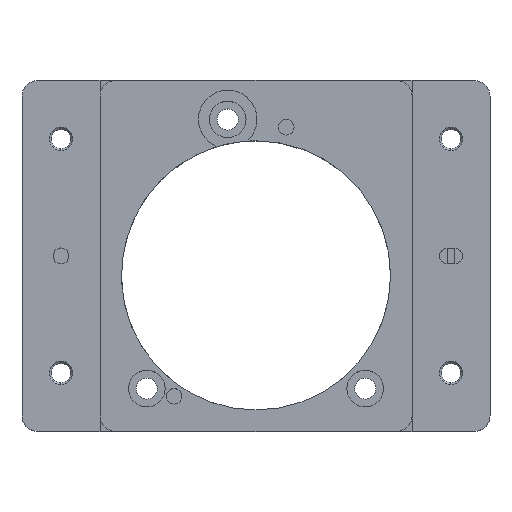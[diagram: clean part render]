
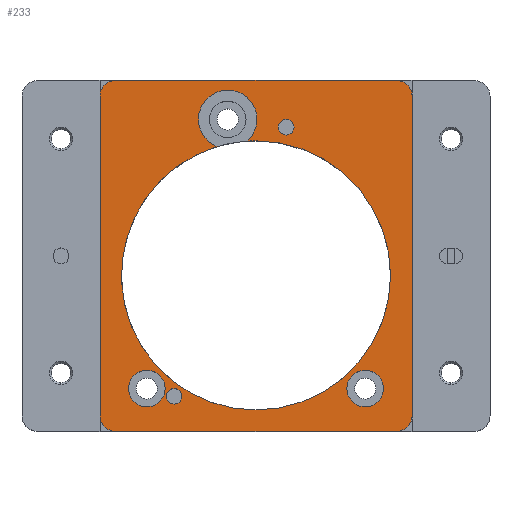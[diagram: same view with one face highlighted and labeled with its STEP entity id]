
A CAD part, top view. The second image highlights one B-rep face of the part: STEP entity #233.
In plain terms, the highlighted planar face has unit normal (0, 0, 1).
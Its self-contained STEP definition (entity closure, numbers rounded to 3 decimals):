
#233=ADVANCED_FACE('',(#470,#471,#472,#473,#474,#348),#1184,.T.);
#348=FACE_OUTER_BOUND('',#506,.F.);
#470=FACE_BOUND('',#501,.F.);
#471=FACE_BOUND('',#502,.F.);
#472=FACE_BOUND('',#503,.F.);
#473=FACE_BOUND('',#504,.F.);
#474=FACE_BOUND('',#505,.F.);
#501=EDGE_LOOP('',(#673,#674));
#502=EDGE_LOOP('',(#675,#676));
#503=EDGE_LOOP('',(#677,#678,#679,#680,#681));
#504=EDGE_LOOP('',(#682,#683));
#505=EDGE_LOOP('',(#684,#685));
#506=EDGE_LOOP('',(#686,#687,#688,#689,#690,#691,#692,#693));
#673=ORIENTED_EDGE('',*,*,#2292,.T.);
#674=ORIENTED_EDGE('',*,*,#2291,.T.);
#675=ORIENTED_EDGE('',*,*,#2312,.T.);
#676=ORIENTED_EDGE('',*,*,#2311,.T.);
#677=ORIENTED_EDGE('',*,*,#2324,.T.);
#678=ORIENTED_EDGE('',*,*,#2323,.T.);
#679=ORIENTED_EDGE('',*,*,#2303,.T.);
#680=ORIENTED_EDGE('',*,*,#2302,.T.);
#681=ORIENTED_EDGE('',*,*,#2304,.T.);
#682=ORIENTED_EDGE('',*,*,#2316,.T.);
#683=ORIENTED_EDGE('',*,*,#2315,.T.);
#684=ORIENTED_EDGE('',*,*,#2290,.T.);
#685=ORIENTED_EDGE('',*,*,#2289,.T.);
#686=ORIENTED_EDGE('',*,*,#2325,.F.);
#687=ORIENTED_EDGE('',*,*,#2273,.F.);
#688=ORIENTED_EDGE('',*,*,#2287,.T.);
#689=ORIENTED_EDGE('',*,*,#2276,.F.);
#690=ORIENTED_EDGE('',*,*,#2326,.F.);
#691=ORIENTED_EDGE('',*,*,#2270,.F.);
#692=ORIENTED_EDGE('',*,*,#2288,.T.);
#693=ORIENTED_EDGE('',*,*,#2267,.F.);
#1184=PLANE('',#2915);
#1983=LINE('',#3928,#2118);
#1984=LINE('',#3929,#2119);
#1991=LINE('',#3966,#2126);
#1992=LINE('',#3967,#2127);
#2118=VECTOR('',#3168,41.);
#2119=VECTOR('',#3169,41.);
#2126=VECTOR('',#3236,36.);
#2127=VECTOR('',#3237,36.);
#2267=EDGE_CURVE('',#2725,#2724,#2524,.T.);
#2270=EDGE_CURVE('',#2722,#2721,#2525,.T.);
#2273=EDGE_CURVE('',#2719,#2718,#2526,.T.);
#2276=EDGE_CURVE('',#2716,#2715,#2527,.T.);
#2287=EDGE_CURVE('',#2719,#2715,#1983,.T.);
#2288=EDGE_CURVE('',#2722,#2724,#1984,.T.);
#2289=EDGE_CURVE('',#2713,#2712,#2528,.T.);
#2290=EDGE_CURVE('',#2712,#2713,#2529,.T.);
#2291=EDGE_CURVE('',#2711,#2710,#2530,.T.);
#2292=EDGE_CURVE('',#2710,#2711,#2531,.T.);
#2302=EDGE_CURVE('',#2701,#2700,#2535,.T.);
#2303=EDGE_CURVE('',#2703,#2701,#2536,.T.);
#2304=EDGE_CURVE('',#2700,#2702,#2537,.T.);
#2311=EDGE_CURVE('',#2693,#2692,#2544,.T.);
#2312=EDGE_CURVE('',#2692,#2693,#2545,.T.);
#2315=EDGE_CURVE('',#2689,#2688,#2548,.T.);
#2316=EDGE_CURVE('',#2688,#2689,#2549,.T.);
#2323=EDGE_CURVE('',#2681,#2703,#2556,.T.);
#2324=EDGE_CURVE('',#2702,#2681,#2557,.T.);
#2325=EDGE_CURVE('',#2718,#2725,#1991,.T.);
#2326=EDGE_CURVE('',#2721,#2716,#1992,.T.);
#2524=CIRCLE('',#2838,2.);
#2525=CIRCLE('',#2839,2.);
#2526=CIRCLE('',#2840,2.);
#2527=CIRCLE('',#2841,2.);
#2528=CIRCLE('',#2842,1.);
#2529=CIRCLE('',#2843,1.);
#2530=CIRCLE('',#2844,1.);
#2531=CIRCLE('',#2845,1.);
#2535=CIRCLE('',#2849,17.25);
#2536=CIRCLE('',#2850,17.25);
#2537=CIRCLE('',#2851,17.25);
#2544=CIRCLE('',#2858,2.35);
#2545=CIRCLE('',#2859,2.35);
#2548=CIRCLE('',#2862,2.35);
#2549=CIRCLE('',#2863,2.35);
#2556=CIRCLE('',#2870,3.75);
#2557=CIRCLE('',#2871,3.75);
#2681=VERTEX_POINT('',#3769);
#2688=VERTEX_POINT('',#3776);
#2689=VERTEX_POINT('',#3777);
#2692=VERTEX_POINT('',#3780);
#2693=VERTEX_POINT('',#3781);
#2700=VERTEX_POINT('',#3788);
#2701=VERTEX_POINT('',#3789);
#2702=VERTEX_POINT('',#3790);
#2703=VERTEX_POINT('',#3791);
#2710=VERTEX_POINT('',#3798);
#2711=VERTEX_POINT('',#3799);
#2712=VERTEX_POINT('',#3800);
#2713=VERTEX_POINT('',#3801);
#2715=VERTEX_POINT('',#3803);
#2716=VERTEX_POINT('',#3804);
#2718=VERTEX_POINT('',#3806);
#2719=VERTEX_POINT('',#3807);
#2721=VERTEX_POINT('',#3809);
#2722=VERTEX_POINT('',#3810);
#2724=VERTEX_POINT('',#3812);
#2725=VERTEX_POINT('',#3813);
#2838=AXIS2_PLACEMENT_3D('',#3908,#3144,#3145);
#2839=AXIS2_PLACEMENT_3D('',#3911,#3148,#3149);
#2840=AXIS2_PLACEMENT_3D('',#3914,#3152,#3153);
#2841=AXIS2_PLACEMENT_3D('',#3917,#3156,#3157);
#2842=AXIS2_PLACEMENT_3D('',#3930,#3170,#3171);
#2843=AXIS2_PLACEMENT_3D('',#3931,#3172,#3173);
#2844=AXIS2_PLACEMENT_3D('',#3932,#3174,#3175);
#2845=AXIS2_PLACEMENT_3D('',#3933,#3176,#3177);
#2849=AXIS2_PLACEMENT_3D('',#3943,#3190,#3191);
#2850=AXIS2_PLACEMENT_3D('',#3944,#3192,#3193);
#2851=AXIS2_PLACEMENT_3D('',#3945,#3194,#3195);
#2858=AXIS2_PLACEMENT_3D('',#3952,#3208,#3209);
#2859=AXIS2_PLACEMENT_3D('',#3953,#3210,#3211);
#2862=AXIS2_PLACEMENT_3D('',#3956,#3216,#3217);
#2863=AXIS2_PLACEMENT_3D('',#3957,#3218,#3219);
#2870=AXIS2_PLACEMENT_3D('',#3964,#3232,#3233);
#2871=AXIS2_PLACEMENT_3D('',#3965,#3234,#3235);
#2915=AXIS2_PLACEMENT_3D('',#4080,#3393,#3394);
#3144=DIRECTION('',(0.,0.,1.));
#3145=DIRECTION('',(0.,1.,0.));
#3148=DIRECTION('',(0.,0.,1.));
#3149=DIRECTION('',(-1.,0.,0.));
#3152=DIRECTION('',(0.,0.,1.));
#3153=DIRECTION('',(1.,0.,0.));
#3156=DIRECTION('',(0.,0.,1.));
#3157=DIRECTION('',(0.,-1.,0.));
#3168=DIRECTION('',(0.,-1.,0.));
#3169=DIRECTION('',(0.,1.,0.));
#3170=DIRECTION('',(0.,0.,1.));
#3171=DIRECTION('',(1.,0.,0.));
#3172=DIRECTION('',(0.,0.,1.));
#3173=DIRECTION('',(-1.,0.,0.));
#3174=DIRECTION('',(0.,0.,1.));
#3175=DIRECTION('',(-1.,0.,0.));
#3176=DIRECTION('',(0.,0.,1.));
#3177=DIRECTION('',(1.,0.,0.));
#3190=DIRECTION('',(0.,0.,1.));
#3191=DIRECTION('',(0.,-1.,0.));
#3192=DIRECTION('',(0.,0.,1.));
#3193=DIRECTION('',(-0.29,0.957,0.));
#3194=DIRECTION('',(0.,0.,1.));
#3195=DIRECTION('',(0.,1.,0.));
#3208=DIRECTION('',(0.,0.,1.));
#3209=DIRECTION('',(0.,-1.,0.));
#3210=DIRECTION('',(0.,0.,1.));
#3211=DIRECTION('',(0.,1.,0.));
#3216=DIRECTION('',(0.,0.,1.));
#3217=DIRECTION('',(0.,-1.,0.));
#3218=DIRECTION('',(0.,0.,1.));
#3219=DIRECTION('',(0.,1.,0.));
#3232=DIRECTION('',(0.,0.,1.));
#3233=DIRECTION('',(0.,1.,0.));
#3234=DIRECTION('',(0.,0.,1.));
#3235=DIRECTION('',(0.669,-0.743,0.));
#3236=DIRECTION('',(-1.,0.,0.));
#3237=DIRECTION('',(1.,0.,0.));
#3393=DIRECTION('',(0.,0.,1.));
#3394=DIRECTION('',(-1.,0.,0.));
#3769=CARTESIAN_POINT('',(201.375,84.55,160.8));
#3776=CARTESIAN_POINT('',(191.,48.65,160.8));
#3777=CARTESIAN_POINT('',(191.,43.95,160.8));
#3780=CARTESIAN_POINT('',(219.,48.65,160.8));
#3781=CARTESIAN_POINT('',(219.,43.95,160.8));
#3788=CARTESIAN_POINT('',(205.,78.05,160.8));
#3789=CARTESIAN_POINT('',(205.,43.55,160.8));
#3790=CARTESIAN_POINT('',(203.885,78.014,160.8));
#3791=CARTESIAN_POINT('',(200.002,77.31,160.8));
#3798=CARTESIAN_POINT('',(195.5,45.3,160.8));
#3799=CARTESIAN_POINT('',(193.5,45.3,160.8));
#3800=CARTESIAN_POINT('',(207.875,79.8,160.8));
#3801=CARTESIAN_POINT('',(209.875,79.8,160.8));
#3803=CARTESIAN_POINT('',(225.,42.8,160.8));
#3804=CARTESIAN_POINT('',(223.,40.8,160.8));
#3806=CARTESIAN_POINT('',(223.,85.8,160.8));
#3807=CARTESIAN_POINT('',(225.,83.8,160.8));
#3809=CARTESIAN_POINT('',(187.,40.8,160.8));
#3810=CARTESIAN_POINT('',(185.,42.8,160.8));
#3812=CARTESIAN_POINT('',(185.,83.8,160.8));
#3813=CARTESIAN_POINT('',(187.,85.8,160.8));
#3908=CARTESIAN_POINT('',(187.,83.8,160.8));
#3911=CARTESIAN_POINT('',(187.,42.8,160.8));
#3914=CARTESIAN_POINT('',(223.,83.8,160.8));
#3917=CARTESIAN_POINT('',(223.,42.8,160.8));
#3928=CARTESIAN_POINT('',(225.,83.8,160.8));
#3929=CARTESIAN_POINT('',(185.,42.8,160.8));
#3930=CARTESIAN_POINT('',(208.875,79.8,160.8));
#3931=CARTESIAN_POINT('',(208.875,79.8,160.8));
#3932=CARTESIAN_POINT('',(194.5,45.3,160.8));
#3933=CARTESIAN_POINT('',(194.5,45.3,160.8));
#3943=CARTESIAN_POINT('',(205.,60.8,160.8));
#3944=CARTESIAN_POINT('',(205.,60.8,160.8));
#3945=CARTESIAN_POINT('',(205.,60.8,160.8));
#3952=CARTESIAN_POINT('',(219.,46.3,160.8));
#3953=CARTESIAN_POINT('',(219.,46.3,160.8));
#3956=CARTESIAN_POINT('',(191.,46.3,160.8));
#3957=CARTESIAN_POINT('',(191.,46.3,160.8));
#3964=CARTESIAN_POINT('',(201.375,80.8,160.8));
#3965=CARTESIAN_POINT('',(201.375,80.8,160.8));
#3966=CARTESIAN_POINT('',(223.,85.8,160.8));
#3967=CARTESIAN_POINT('',(187.,40.8,160.8));
#4080=CARTESIAN_POINT('',(235.6,86.4,160.8));
